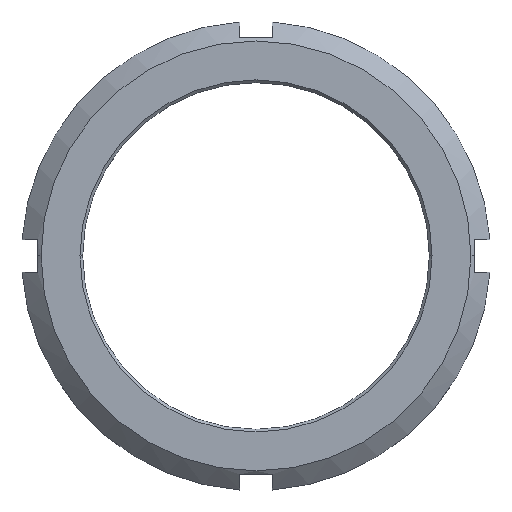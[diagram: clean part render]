
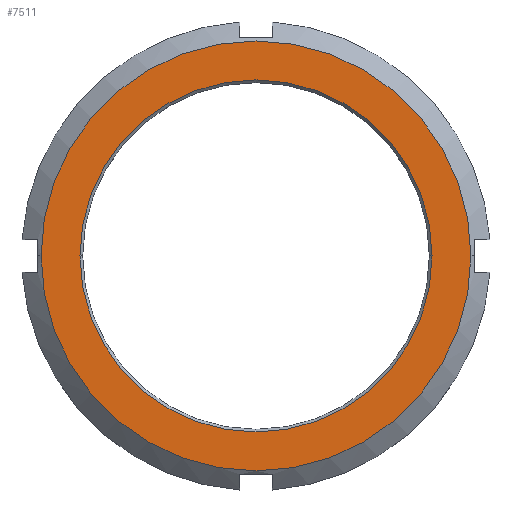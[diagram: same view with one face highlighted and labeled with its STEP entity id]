
A CAD part, top view. The second image highlights one B-rep face of the part: STEP entity #7511.
In plain terms, the highlighted planar face has unit normal (0, 0, 1).
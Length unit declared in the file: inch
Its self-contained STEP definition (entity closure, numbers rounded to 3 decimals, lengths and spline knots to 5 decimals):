
#40 = EDGE_CURVE ( 'NONE', #267, #268, #5343, .T. ) ;
#267 = VERTEX_POINT ( 'NONE', #4699 ) ;
#268 = VERTEX_POINT ( 'NONE', #4698 ) ;
#397 = CARTESIAN_POINT ( 'NONE',  ( 21.02708, 6.28001, 0.75 ) ) ;
#402 = CARTESIAN_POINT ( 'NONE',  ( 21.02708, 6.28001, 0.75 ) ) ;
#403 = DIRECTION ( 'NONE',  ( 0., 0., -1. ) ) ;
#404 = DIRECTION ( 'NONE',  ( 1., 0., 0. ) ) ;
#412 = DIRECTION ( 'NONE',  ( 0., 0., 1. ) ) ;
#413 = DIRECTION ( 'NONE',  ( 1., 0., 0. ) ) ;
#1813 = EDGE_CURVE ( 'NONE', #8158, #8159, #5502, .T. ) ;
#1816 = EDGE_CURVE ( 'NONE', #268, #267, #5507, .T. ) ;
#1837 = AXIS2_PLACEMENT_3D ( 'NONE', #2411, #2412, #2413 ) ;
#2411 = CARTESIAN_POINT ( 'NONE',  ( 21.02708, 6.28001, 0.75 ) ) ;
#2412 = DIRECTION ( 'NONE',  ( 0., 0., 1. ) ) ;
#2413 = DIRECTION ( 'NONE',  ( 1., 0., 0. ) ) ;
#3651 = CARTESIAN_POINT ( 'NONE',  ( 21.02708, 6.28001, 0.75 ) ) ;
#3657 = DIRECTION ( 'NONE',  ( 0., 0., -1. ) ) ;
#3658 = DIRECTION ( 'NONE',  ( 1., 0., 0. ) ) ;
#3725 = CARTESIAN_POINT ( 'NONE',  ( 21.02708, 6.28001, 0.75 ) ) ;
#3726 = PLANE ( 'NONE',  #3867 ) ;
#3727 = DIRECTION ( 'NONE',  ( 0., 0., 1. ) ) ;
#3728 = DIRECTION ( 'NONE',  ( 1., 0., 0. ) ) ;
#3853 = AXIS2_PLACEMENT_3D ( 'NONE', #3651, #3657, #3658 ) ;
#3867 = AXIS2_PLACEMENT_3D ( 'NONE', #3725, #3727, #3728 ) ;
#4405 = EDGE_CURVE ( 'NONE', #8159, #8158, #5635, .T. ) ;
#4698 = CARTESIAN_POINT ( 'NONE',  ( 18.53511, 6.28001, 0.75 ) ) ;
#4699 = CARTESIAN_POINT ( 'NONE',  ( 23.51905, 6.28001, 0.75 ) ) ;
#4805 = AXIS2_PLACEMENT_3D ( 'NONE', #397, #403, #404 ) ;
#4808 = AXIS2_PLACEMENT_3D ( 'NONE', #402, #412, #413 ) ;
#5277 = EDGE_LOOP ( 'NONE', ( #8102, #8104 ) ) ;
#5297 = EDGE_LOOP ( 'NONE', ( #8105, #8100 ) ) ;
#5343 = CIRCLE ( 'NONE', #1837, 2.49197 ) ;
#5502 = CIRCLE ( 'NONE', #4805, 2.04125 ) ;
#5507 = CIRCLE ( 'NONE', #4808, 2.49197 ) ;
#5635 = CIRCLE ( 'NONE', #3853, 2.04125 ) ;
#5656 = FACE_BOUND ( 'NONE', #5277, .T. ) ;
#5661 = FACE_OUTER_BOUND ( 'NONE', #5297, .T. ) ;
#7408 = CARTESIAN_POINT ( 'NONE',  ( 18.98583, 6.28001, 0.75 ) ) ;
#7414 = CARTESIAN_POINT ( 'NONE',  ( 23.06833, 6.28001, 0.75 ) ) ;
#7511 = ADVANCED_FACE ( 'NONE', ( #5656, #5661 ), #3726, .T. ) ;
#8100 = ORIENTED_EDGE ( 'NONE', *, *, #40, .T. ) ;
#8102 = ORIENTED_EDGE ( 'NONE', *, *, #4405, .T. ) ;
#8104 = ORIENTED_EDGE ( 'NONE', *, *, #1813, .T. ) ;
#8105 = ORIENTED_EDGE ( 'NONE', *, *, #1816, .T. ) ;
#8158 = VERTEX_POINT ( 'NONE', #7408 ) ;
#8159 = VERTEX_POINT ( 'NONE', #7414 ) ;
